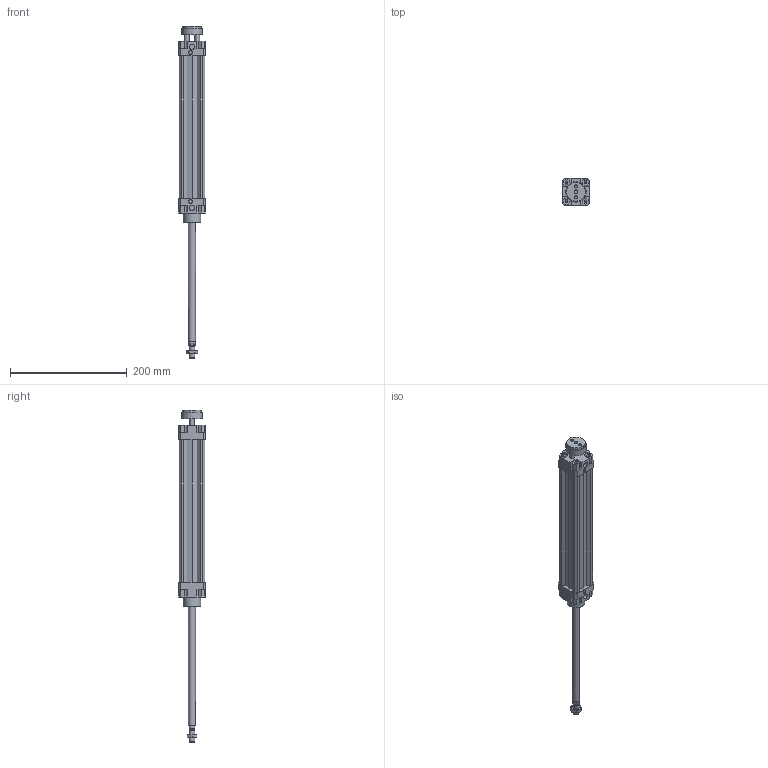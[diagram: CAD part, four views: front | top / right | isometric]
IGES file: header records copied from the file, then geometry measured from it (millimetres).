
Global section: file name: 132#_032_0200_02; native system: Autodesk Inventor 2014; preprocessor: unknown; author: A. Manieri; date: 20161006.154712; units: millimetre
Bounding box: 46 x 46 x 568 mm (x, y, z)
Volume: 356423.1 mm3; surface area: 129106.7 mm2
Topology: 3 solids, 3 shells, 227 faces, 605 edges, 405 vertices
Faces by surface type: bspline 227
